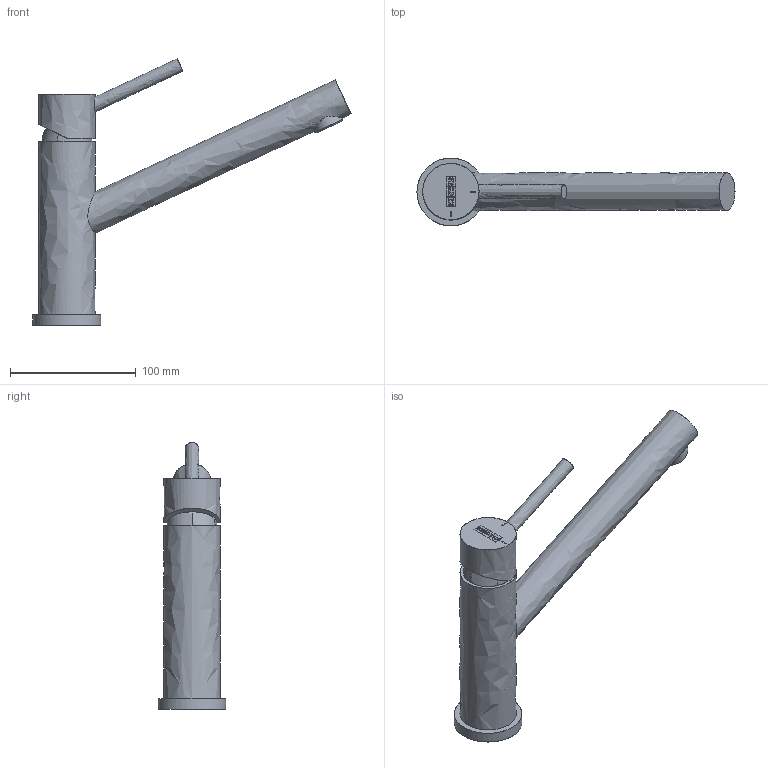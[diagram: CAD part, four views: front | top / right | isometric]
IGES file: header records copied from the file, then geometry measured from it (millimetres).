
Global section: file name: F:\_CONVERSIONE_CAD_2024_2025\03_3D kits new\08_Taps\Orbit\3D001_Taps_Orbit_Swivel-SS\3D001_Taps_Orbit_Swivel-SS.igs; native system: Rhinoceros ( Jan  9 2024 ); preprocessor: Trout Lake IGES 012 Jan  9 2024; date: 240131.142805; units: millimetre
Bounding box: 253.26 x 54 x 212.42 mm (x, y, z)
Surface area: 55334.3 mm2 (no closed solid volume)
Topology: 0 solids, 0 shells, 178 faces, 1022 edges, 1015 vertices
Faces by surface type: bspline 178
